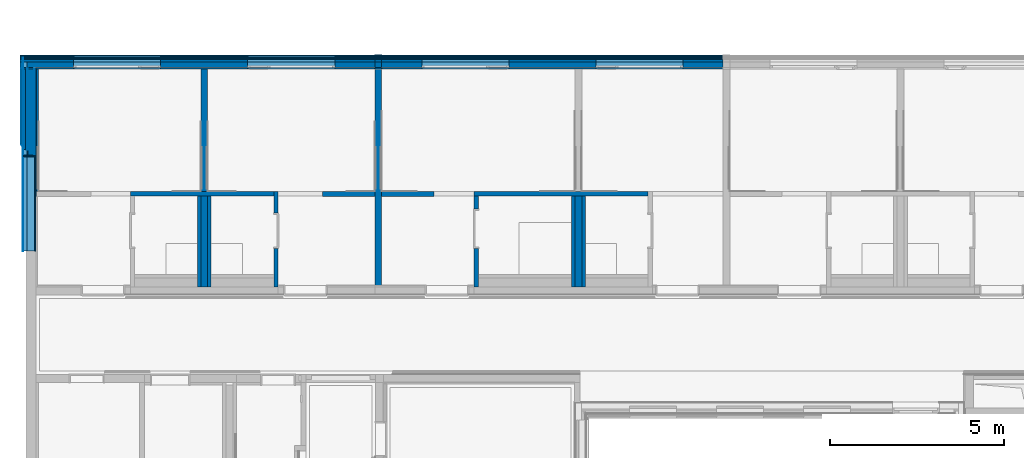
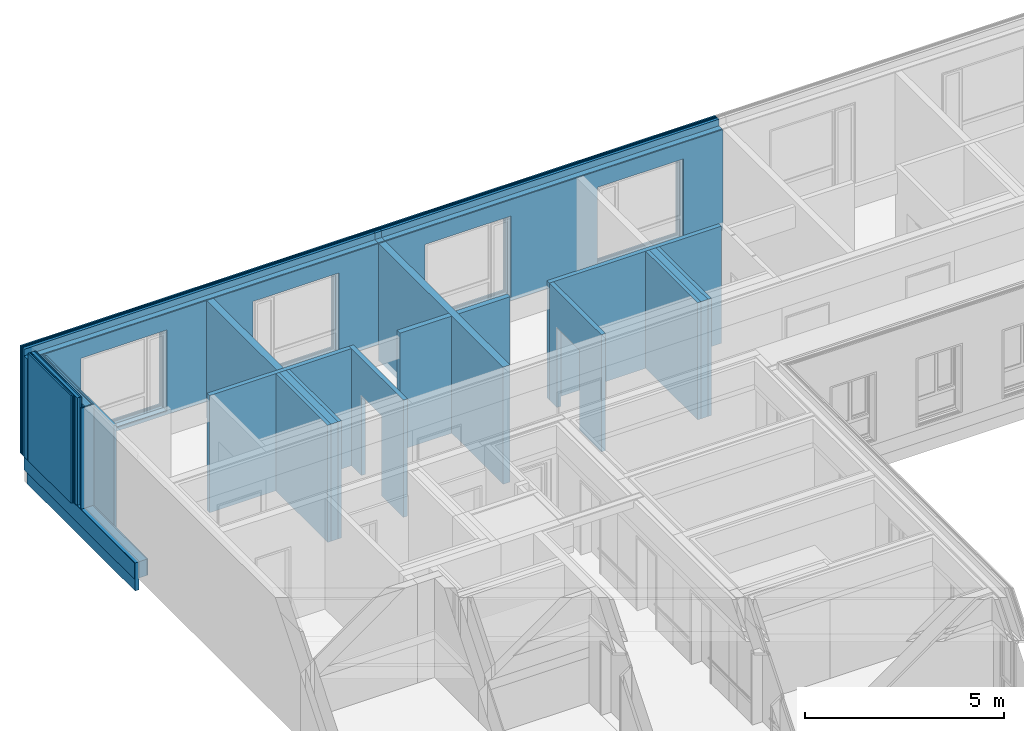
# One storey, part 37 of 207: 50 walls, 30 openings.
"""IFC4 building model written with IfcOpenShell, lengths in metres."""

import ifcopenshell
import ifcopenshell.guid

model = None  # the IFC model being written
_history = None  # IfcOwnerHistory: only IFC2X3 demands one
_inside = {}  # id of a spatial element -> (the spatial element, [elements in it])
_under = {}  # id of a project, library or spatial element -> (it, [spatial elements below it])
_declared = {}  # id of a project -> (the project, [libraries it declares])
_typed = {}  # id of a type object -> (the type object, [elements of that type])
_made_of = {}  # id of a material, layer set ... -> (it, [elements and type objects made of it])


def new_model(schema):
    """Start an empty IFC model of exactly this schema.

    Asked for "IFC4X3", IfcOpenShell would pick the latest addendum, in which some entities
    have other attributes; the version numbers below select the first issue.
    IFC2X3 requires an IfcOwnerHistory on every rooted entity: one is made here for all.
    """
    global model, _history
    if schema == "IFC4X3":
        model = ifcopenshell.file(schema_version=(4, 3, 0, 0))
    else:
        model = ifcopenshell.file(schema=schema)
    _inside.clear()
    _under.clear()
    _declared.clear()
    _typed.clear()
    _made_of.clear()
    _history = None
    if model.schema == "IFC2X3":
        org = make("IfcOrganization", Name="unknown")
        user = make(
            "IfcPersonAndOrganization",
            ThePerson=make("IfcPerson", FamilyName="unknown"),
            TheOrganization=org,
        )
        app = make(
            "IfcApplication",
            ApplicationDeveloper=org,
            Version="unknown",
            ApplicationFullName="unknown",
            ApplicationIdentifier="unknown",
        )
        _history = make(
            "IfcOwnerHistory",
            OwningUser=user,
            OwningApplication=app,
            ChangeAction="ADDED",
            CreationDate=0,
        )
    return model


def make(cls, **values):
    """One entity of the class cls with the attributes given. An attribute that is None is left unset."""
    return model.create_entity(
        cls, **{name: value for name, value in values.items() if value is not None}
    )


def entity(cls, *values):
    """Any entity or typed value of the class cls, its attributes in the order of the schema. None: left unset."""
    e = model.create_entity(cls)
    for i, value in enumerate(values):
        if value is not None:
            e[i] = value
    return e


def rooted(cls, **values):
    """An entity with a GlobalId (a new one), such as an element, a storey or a relation."""
    return make(cls, GlobalId=ifcopenshell.guid.new(), OwnerHistory=_history, **values)


def si_unit(unit_type, name, prefix=None):
    """IfcSIUnit, for example si_unit("LENGTHUNIT", "METRE", prefix="MILLI")."""
    return make("IfcSIUnit", UnitType=unit_type, Prefix=prefix, Name=name)


def converted_unit(unit_type, name, factor, base, dimensions=None, offset=None):
    """IfcConversionBasedUnit, such as the inch: factor (a typed value) times the base unit."""
    return make(
        "IfcConversionBasedUnit"
        if offset is None
        else "IfcConversionBasedUnitWithOffset",
        ConversionOffset=offset,
        Dimensions=None
        if dimensions is None
        else entity("IfcDimensionalExponents", *dimensions),
        UnitType=unit_type,
        Name=name,
        ConversionFactor=make(
            "IfcMeasureWithUnit", ValueComponent=factor, UnitComponent=base
        ),
    )


def derived_unit(unit_type, elements):
    """IfcDerivedUnit: a product of units, each with its exponent."""
    return make(
        "IfcDerivedUnit",
        Elements=[
            make("IfcDerivedUnitElement", Unit=unit, Exponent=power)
            for unit, power in elements
        ],
        UnitType=unit_type,
    )


def assignment(units):
    """IfcUnitAssignment: the units of a project."""
    return None if units is None else make("IfcUnitAssignment", Units=units)


def point(xyz):
    """IfcCartesianPoint."""
    return None if xyz is None else make("IfcCartesianPoint", Coordinates=xyz)


def direction(xyz):
    """IfcDirection."""
    return None if xyz is None else make("IfcDirection", DirectionRatios=xyz)


def frame(location, z_axis=None, x_axis=None):
    """IfcAxis2Placement3D, a coordinate frame: its origin and axes. An axis left out is left unset."""
    return make(
        "IfcAxis2Placement3D",
        Location=point(location),
        Axis=direction(z_axis),
        RefDirection=direction(x_axis),
    )


def frame_2d(location, x_axis=None):
    """IfcAxis2Placement2D, a coordinate frame in the plane: its origin and x axis."""
    return make(
        "IfcAxis2Placement2D", Location=point(location), RefDirection=direction(x_axis)
    )


def origin():
    """The frame at (0, 0, 0) with its axes left unset."""
    return frame((0.0, 0.0, 0.0))


def origin_with_axes():
    """The frame at (0, 0, 0) with the z axis (0, 0, 1) and the x axis (1, 0, 0) written out."""
    return frame((0.0, 0.0, 0.0), z_axis=(0.0, 0.0, 1.0), x_axis=(1.0, 0.0, 0.0))


def place(relative_to, where):
    """IfcLocalPlacement: puts the frame where relative to a parent placement (None: the world)."""
    return make(
        "IfcLocalPlacement", PlacementRelTo=relative_to, RelativePlacement=where
    )


def context(
    kind, dimensions, precision=None, world=None, true_north=None, identifier=None
):
    """IfcGeometricRepresentationContext, for example the 3D "Model" context."""
    return make(
        "IfcGeometricRepresentationContext",
        ContextIdentifier=identifier,
        ContextType=kind,
        CoordinateSpaceDimension=dimensions,
        Precision=precision,
        WorldCoordinateSystem=world,
        TrueNorth=true_north,
    )


def subcontext(parent, identifier, kind, view, scale=None):
    """IfcGeometricRepresentationSubContext, for example "Body" below "Model"."""
    return make(
        "IfcGeometricRepresentationSubContext",
        ContextIdentifier=identifier,
        ContextType=kind,
        ParentContext=parent,
        TargetScale=scale,
        TargetView=view,
    )


def project(units=None, contexts=None):
    """IfcProject with its units and contexts."""
    return rooted(
        "IfcProject",
        Name="project",
        RepresentationContexts=contexts,
        UnitsInContext=assignment(units),
    )


def spatial(cls, under=None, at=None, **own):
    """A site, building, storey or space (cls), placed at a placement, below another one or the project."""
    s = rooted(cls, ObjectPlacement=at, **own)
    if under is not None:
        _under.setdefault(under.id(), (under, []))[1].append(s)
    return s


def polyline(points):
    """IfcPolyline through the points."""
    return make("IfcPolyline", Points=[point(p) for p in points])


def profile(cls, at=None, kind="AREA", **sizes):
    """A parametric profile (cls). Its sizes go by their IFC names, for example OverallWidth=200.0."""
    return make(cls, ProfileType=kind, Position=at, **sizes)


def rectangle(**sizes):
    """IfcRectangleProfileDef."""
    return profile("IfcRectangleProfileDef", **sizes)


def outline(outer, holes=None, kind="AREA"):
    """IfcArbitraryClosedProfileDef: a profile drawn as a closed curve; with holes, ...WithVoids."""
    if holes is None:
        return make("IfcArbitraryClosedProfileDef", ProfileType=kind, OuterCurve=outer)
    return make(
        "IfcArbitraryProfileDefWithVoids",
        ProfileType=kind,
        OuterCurve=outer,
        InnerCurves=holes,
    )


def extrude(swept, where, along, depth):
    """IfcExtrudedAreaSolid: the profile swept, set in the frame where, extruded along a direction by depth."""
    return make(
        "IfcExtrudedAreaSolid",
        SweptArea=swept,
        Position=where,
        ExtrudedDirection=direction(along),
        Depth=depth,
    )


def shape(context_of_items, identifier, shape_type, items):
    """IfcShapeRepresentation: the items that make up one representation, for example the "Body"."""
    return make(
        "IfcShapeRepresentation",
        ContextOfItems=context_of_items,
        RepresentationIdentifier=identifier,
        RepresentationType=shape_type,
        Items=items,
    )


def material(Name=None, Category=None):
    """IfcMaterial."""
    return make("IfcMaterial", Name=Name, Category=Category)


def made_of(thing, what):
    """Note that an element or type object is made of a material, layer set ...; save() writes the relation."""
    if what is not None:
        _made_of.setdefault(what.id(), (what, []))[1].append(thing)
    return thing


def element(
    cls,
    number,
    at=None,
    inside=None,
    cuts=None,
    type_object=None,
    material=None,
    context=None,
    identifier="Body",
    shape_type=None,
    held_by="IfcProductDefinitionShape",
    body=None,
    shapes=None,
    **own,
):
    """One element of the class cls, such as IfcWall. Its Tag is "e" and its number.

    at: its placement. inside: the storey or other place that contains it. cuts: it is an
    opening in that element (IfcRelVoidsElement). A single representation is given by context,
    identifier, shape_type and body (its items); several are given by shapes. held_by: the class
    of the entity that holds the representations. save() writes the other relations.
    """
    e = rooted(cls, Tag="e%d" % number, ObjectPlacement=at, **own)
    if body is not None:
        shapes = [shape(context, identifier, shape_type, body)]
    if shapes is not None:
        e.Representation = make(held_by, Representations=shapes)
    if inside is not None:
        _inside.setdefault(inside.id(), (inside, []))[1].append(e)
    if cuts is not None:
        rooted(
            "IfcRelVoidsElement", RelatingBuildingElement=cuts, RelatedOpeningElement=e
        )
    if type_object is not None:
        _typed.setdefault(type_object.id(), (type_object, []))[1].append(e)
    return made_of(e, material)


def aggregate(whole, parts):
    """IfcRelAggregates: a whole, such as a stair, and the parts it consists of."""
    return rooted("IfcRelAggregates", RelatingObject=whole, RelatedObjects=parts)


def save(model, path):
    """Write the relations noted so far, then the file.

    IfcRelAggregates (storeys below a building ...), IfcRelContainedInSpatialStructure (elements
    in a storey), IfcRelDefinesByType, IfcRelAssociatesMaterial and IfcRelDeclares: one each for
    every whole, place, type object, material and project.
    """
    for whole, parts in _under.values():
        aggregate(whole, parts)
    for where, things in _inside.values():
        rooted(
            "IfcRelContainedInSpatialStructure",
            RelatedElements=things,
            RelatingStructure=where,
        )
    for kind, things in _typed.values():
        rooted("IfcRelDefinesByType", RelatedObjects=things, RelatingType=kind)
    for what, things in _made_of.values():
        rooted("IfcRelAssociatesMaterial", RelatedObjects=things, RelatingMaterial=what)
    for by, libraries in _declared.values():
        rooted("IfcRelDeclares", RelatingContext=by, RelatedDefinitions=libraries)
    model.write(path)


model = new_model("IFC4")

# Units and contexts
model_context = context("Model", 3, precision=1e-05, world=origin())
body_context = subcontext(model_context, "Body", "Model", "MODEL_VIEW")
ifc_project = project(units=[si_unit("LENGTHUNIT", "METRE"), si_unit("AREAUNIT", "SQUARE_METRE"), si_unit("VOLUMEUNIT", "CUBIC_METRE"), si_unit("MASSUNIT", "GRAM", prefix="KILO"), converted_unit("PLANEANGLEUNIT", "DEGREE", entity("IfcPlaneAngleMeasure", 0.0174532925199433), si_unit("PLANEANGLEUNIT", "RADIAN"), dimensions=[0, 0, 0, 0, 0, 0, 0]), derived_unit("THERMALTRANSMITTANCEUNIT", [(si_unit("POWERUNIT", "WATT"), 1), (si_unit("THERMODYNAMICTEMPERATUREUNIT", "KELVIN"), -1), (si_unit("LENGTHUNIT", "METRE"), -2)]), derived_unit("VOLUMETRICFLOWRATEUNIT", [(si_unit("LENGTHUNIT", "METRE"), 3), (converted_unit("TIMEUNIT", "hour", entity("IfcTimeMeasure", 3600.0), si_unit("TIMEUNIT", "SECOND"), dimensions=[0, 0, 1, 0, 0, 0, 0]), -1), (si_unit("LENGTHUNIT", "METRE"), -1)])], contexts=[model_context])

# Site, building, storey
site_placement = place(None, origin())
site = spatial("IfcSite", under=ifc_project, at=site_placement, Name="Psychiatrie Neubau Wunstorf", CompositionType="ELEMENT")
building_placement = place(site_placement, origin())
building = spatial("IfcBuilding", under=site, at=building_placement, Name="Neubau H2 Stationsgebäude", CompositionType="ELEMENT")
storey_placement = place(building_placement, frame((0.0, 0.0, -0.2)))
storey = spatial("IfcBuildingStorey", under=building, at=storey_placement, Name="H2 Ebene 0", CompositionType="ELEMENT", Elevation=-0.2)

# Wall, openings
ifc_material_1 = material(Name="WA-LB")
wall_1_placement = place(storey_placement, frame((-0.293, 30.614, 0.5)))
wall_1 = element("IfcWall", 1, at=wall_1_placement, inside=storey, material=ifc_material_1, context=body_context, shape_type="SweptSolid", body=[
    extrude(rectangle(XDim=10.193, YDim=0.036, at=frame_2d((5.0965, 0.018), x_axis=(1.0, 0.0))), origin_with_axes(), (0.0, 0.0, 1.0), 3.1),
])
opening_1_placement = place(wall_1_placement, frame((1.543, 0.0, 0.1), z_axis=(0.0, 1.0, 0.0), x_axis=(0.0, 0.0, 1.0)))
element("IfcOpeningElement", 2, at=opening_1_placement, cuts=wall_1, Name="Fensteröffnung", ObjectType="Opening", context=body_context, shape_type="SweptSolid", body=[
    extrude(outline(polyline([(2.5, 2.5), (2.5, 0.0), (0.0, 0.0), (0.0, 2.5), (2.5, 2.5)])), origin_with_axes(), (0.0, 0.0, 1.0), 0.036),
])
opening_2_placement = place(wall_1_placement, frame((6.543, 0.0, 0.1), z_axis=(0.0, 1.0, 0.0), x_axis=(0.0, 0.0, 1.0)))
element("IfcOpeningElement", 3, at=opening_2_placement, cuts=wall_1, Name="Fensteröffnung", ObjectType="Opening", context=body_context, shape_type="SweptSolid", body=[
    extrude(outline(polyline([(2.5, 2.5), (2.5, 0.0), (0.0, 0.0), (0.0, 2.5), (2.5, 2.5)])), origin_with_axes(), (0.0, 0.0, 1.0), 0.036),
])

ifc_material_2 = material(Name="WA-HD")
wall_2_placement = place(storey_placement, frame((-0.293, 30.65, 0.5)))
wall_2 = element("IfcWall", 4, at=wall_2_placement, inside=storey, material=ifc_material_2, context=body_context, shape_type="SweptSolid", body=[
    extrude(rectangle(XDim=10.193, YDim=0.16, at=frame_2d((5.0965, 0.08), x_axis=(1.0, 0.0))), origin_with_axes(), (0.0, 0.0, 1.0), 3.1),
])
opening_3_placement = place(wall_2_placement, frame((6.543, 0.0, 0.1), z_axis=(0.0, 1.0, 0.0), x_axis=(0.0, 0.0, 1.0)))
element("IfcOpeningElement", 5, at=opening_3_placement, cuts=wall_2, Name="Fensteröffnung", ObjectType="Opening", context=body_context, shape_type="SweptSolid", body=[
    extrude(outline(polyline([(2.5, 2.5), (2.5, 0.0), (0.0, 0.0), (0.0, 2.5), (2.5, 2.5)])), origin_with_axes(), (0.0, 0.0, 1.0), 0.16),
])
opening_4_placement = place(wall_2_placement, frame((1.543, 0.0, 0.1), z_axis=(0.0, 1.0, 0.0), x_axis=(0.0, 0.0, 1.0)))
element("IfcOpeningElement", 6, at=opening_4_placement, cuts=wall_2, Name="Fensteröffnung", ObjectType="Opening", context=body_context, shape_type="SweptSolid", body=[
    extrude(outline(polyline([(2.5, 2.5), (2.5, 0.0), (0.0, 0.0), (0.0, 2.5), (2.5, 2.5)])), origin_with_axes(), (0.0, 0.0, 1.0), 0.16),
])

ifc_material_3 = material(Name="WA-DL")
wall_3_placement = place(storey_placement, frame((-0.293, 30.81, 0.5)))
wall_3 = element("IfcWall", 7, at=wall_3_placement, inside=storey, material=ifc_material_3, context=body_context, shape_type="SweptSolid", body=[
    extrude(rectangle(XDim=10.193, YDim=0.08, at=frame_2d((5.0965, 0.04), x_axis=(1.0, 0.0))), origin_with_axes(), (0.0, 0.0, 1.0), 3.3),
])
opening_5_placement = place(wall_3_placement, frame((1.543, 0.0, 0.1), z_axis=(0.0, 1.0, 0.0), x_axis=(0.0, 0.0, 1.0)))
element("IfcOpeningElement", 8, at=opening_5_placement, cuts=wall_3, Name="Fensteröffnung", ObjectType="Opening", context=body_context, shape_type="SweptSolid", body=[
    extrude(outline(polyline([(2.5, 2.5), (2.5, 0.0), (0.0, 0.0), (0.0, 2.5), (2.5, 2.5)])), origin_with_axes(), (0.0, 0.0, 1.0), 0.08),
])
opening_6_placement = place(wall_3_placement, frame((6.543, 0.0, 0.1), z_axis=(0.0, 1.0, 0.0), x_axis=(0.0, 0.0, 1.0)))
element("IfcOpeningElement", 9, at=opening_6_placement, cuts=wall_3, Name="Fensteröffnung", ObjectType="Opening", context=body_context, shape_type="SweptSolid", body=[
    extrude(outline(polyline([(2.5, 2.5), (2.5, 0.0), (0.0, 0.0), (0.0, 2.5), (2.5, 2.5)])), origin_with_axes(), (0.0, 0.0, 1.0), 0.08),
])

ifc_material_4 = material(Name="WA-TP")
wall_4_placement = place(storey_placement, frame((-0.293, 30.89, 0.5)))
wall_4 = element("IfcWall", 10, at=wall_4_placement, inside=storey, material=ifc_material_4, context=body_context, shape_type="SweptSolid", body=[
    extrude(rectangle(XDim=10.193, YDim=0.036, at=frame_2d((5.0965, 0.018), x_axis=(1.0, 0.0))), origin_with_axes(), (0.0, 0.0, 1.0), 3.3),
])
opening_7_placement = place(wall_4_placement, frame((6.543, 0.0, 0.1), z_axis=(0.0, 1.0, 0.0), x_axis=(0.0, 0.0, 1.0)))
element("IfcOpeningElement", 11, at=opening_7_placement, cuts=wall_4, Name="Fensteröffnung", ObjectType="Opening", context=body_context, shape_type="SweptSolid", body=[
    extrude(outline(polyline([(2.5, 2.5), (2.5, 0.0), (0.0, 0.0), (0.0, 2.5), (2.5, 2.5)])), origin_with_axes(), (0.0, 0.0, 1.0), 0.036),
])
opening_8_placement = place(wall_4_placement, frame((1.543, 0.0, 0.1), z_axis=(0.0, 1.0, 0.0), x_axis=(0.0, 0.0, 1.0)))
element("IfcOpeningElement", 12, at=opening_8_placement, cuts=wall_4, Name="Fensteröffnung", ObjectType="Opening", context=body_context, shape_type="SweptSolid", body=[
    extrude(outline(polyline([(2.5, 2.5), (2.5, 0.0), (0.0, 0.0), (0.0, 2.5), (2.5, 2.5)])), origin_with_axes(), (0.0, 0.0, 1.0), 0.036),
])

ifc_material_5 = material(Name="WA-KL")
wall_5_placement = place(storey_placement, frame((-0.293, 30.926, 0.5)))
wall_5 = element("IfcWall", 13, at=wall_5_placement, inside=storey, material=ifc_material_5, context=body_context, shape_type="SweptSolid", body=[
    extrude(rectangle(XDim=10.193, YDim=0.024, at=frame_2d((5.0965, 0.012), x_axis=(1.0, 0.0))), origin_with_axes(), (0.0, 0.0, 1.0), 3.3),
])
opening_9_placement = place(wall_5_placement, frame((1.543, 0.0, 0.1), z_axis=(0.0, 1.0, 0.0), x_axis=(0.0, 0.0, 1.0)))
element("IfcOpeningElement", 14, at=opening_9_placement, cuts=wall_5, Name="Fensteröffnung", ObjectType="Opening", context=body_context, shape_type="SweptSolid", body=[
    extrude(outline(polyline([(2.5, 2.5), (2.5, 0.0), (0.0, 0.0), (0.0, 2.5), (2.5, 2.5)])), origin_with_axes(), (0.0, 0.0, 1.0), 0.024),
])
opening_10_placement = place(wall_5_placement, frame((6.543, 0.0, 0.1), z_axis=(0.0, 1.0, 0.0), x_axis=(0.0, 0.0, 1.0)))
element("IfcOpeningElement", 15, at=opening_10_placement, cuts=wall_5, Name="Fensteröffnung", ObjectType="Opening", context=body_context, shape_type="SweptSolid", body=[
    extrude(outline(polyline([(2.5, 2.5), (2.5, 0.0), (0.0, 0.0), (0.0, 2.5), (2.5, 2.5)])), origin_with_axes(), (0.0, 0.0, 1.0), 0.024),
])

ifc_material_6 = material(Name="WA-TL")
wall_6_placement = place(storey_placement, frame((-0.293, 30.95, 0.5)))
wall_6 = element("IfcWall", 16, at=wall_6_placement, inside=storey, material=ifc_material_6, context=body_context, shape_type="SweptSolid", body=[
    extrude(rectangle(XDim=10.193, YDim=0.024, at=frame_2d((5.0965, 0.012), x_axis=(1.0, 0.0))), origin_with_axes(), (0.0, 0.0, 1.0), 3.3),
])
opening_11_placement = place(wall_6_placement, frame((6.543, 0.0, 0.1), z_axis=(0.0, 1.0, 0.0), x_axis=(0.0, 0.0, 1.0)))
element("IfcOpeningElement", 17, at=opening_11_placement, cuts=wall_6, Name="Fensteröffnung", ObjectType="Opening", context=body_context, shape_type="SweptSolid", body=[
    extrude(outline(polyline([(2.5, 2.5), (2.5, 0.0), (0.0, 0.0), (0.0, 2.5), (2.5, 2.5)])), origin_with_axes(), (0.0, 0.0, 1.0), 0.024),
])
opening_12_placement = place(wall_6_placement, frame((1.543, 0.0, 0.1), z_axis=(0.0, 1.0, 0.0), x_axis=(0.0, 0.0, 1.0)))
element("IfcOpeningElement", 18, at=opening_12_placement, cuts=wall_6, Name="Fensteröffnung", ObjectType="Opening", context=body_context, shape_type="SweptSolid", body=[
    extrude(outline(polyline([(2.5, 2.5), (2.5, 0.0), (0.0, 0.0), (0.0, 2.5), (2.5, 2.5)])), origin_with_axes(), (0.0, 0.0, 1.0), 0.024),
])

ifc_material_7 = material(Name="WA-HS")
wall_7_placement = place(storey_placement, frame((-0.293, 30.974, 0.5)))
wall_7 = element("IfcWall", 19, at=wall_7_placement, inside=storey, material=ifc_material_7, context=body_context, shape_type="SweptSolid", body=[
    extrude(rectangle(XDim=10.193, YDim=0.042, at=frame_2d((5.0965, 0.021), x_axis=(1.0, 0.0))), origin_with_axes(), (0.0, 0.0, 1.0), 3.3),
])
opening_13_placement = place(wall_7_placement, frame((1.543, 0.0, 0.1), z_axis=(0.0, 1.0, 0.0), x_axis=(0.0, 0.0, 1.0)))
element("IfcOpeningElement", 20, at=opening_13_placement, cuts=wall_7, Name="Fensteröffnung", ObjectType="Opening", context=body_context, shape_type="SweptSolid", body=[
    extrude(outline(polyline([(2.5, 2.5), (2.5, 0.0), (0.0, 0.0), (0.0, 2.5), (2.5, 2.5)])), origin_with_axes(), (0.0, 0.0, 1.0), 0.042),
])
opening_14_placement = place(wall_7_placement, frame((6.543, 0.0, 0.1), z_axis=(0.0, 1.0, 0.0), x_axis=(0.0, 0.0, 1.0)))
element("IfcOpeningElement", 21, at=opening_14_placement, cuts=wall_7, Name="Fensteröffnung", ObjectType="Opening", context=body_context, shape_type="SweptSolid", body=[
    extrude(outline(polyline([(2.5, 2.5), (2.5, 0.0), (0.0, 0.0), (0.0, 2.5), (2.5, 2.5)])), origin_with_axes(), (0.0, 0.0, 1.0), 0.042),
])

ifc_material_8 = material(Name="WA-LB")
wall_8_placement = place(storey_placement, frame((10.1, 30.614, 0.5)))
wall_8 = element("IfcWall", 22, at=wall_8_placement, inside=storey, material=ifc_material_8, context=body_context, shape_type="SweptSolid", body=[
    extrude(rectangle(XDim=9.8, YDim=0.036, at=frame_2d((4.9, 0.018), x_axis=(1.0, 0.0))), origin_with_axes(), (0.0, 0.0, 1.0), 3.1),
])
opening_15_placement = place(wall_8_placement, frame((1.15, 0.0, 0.1), z_axis=(0.0, 1.0, 0.0), x_axis=(0.0, 0.0, 1.0)))
element("IfcOpeningElement", 23, at=opening_15_placement, cuts=wall_8, Name="Fensteröffnung", ObjectType="Opening", context=body_context, shape_type="SweptSolid", body=[
    extrude(outline(polyline([(2.5, 2.5), (2.5, 0.0), (0.0, 0.0), (0.0, 2.5), (2.5, 2.5)])), origin_with_axes(), (0.0, 0.0, 1.0), 0.036),
])
opening_16_placement = place(wall_8_placement, frame((6.15, 0.0, 0.1), z_axis=(0.0, 1.0, 0.0), x_axis=(0.0, 0.0, 1.0)))
element("IfcOpeningElement", 24, at=opening_16_placement, cuts=wall_8, Name="Fensteröffnung", ObjectType="Opening", context=body_context, shape_type="SweptSolid", body=[
    extrude(outline(polyline([(2.5, 2.5), (2.5, 0.0), (0.0, 0.0), (0.0, 2.5), (2.5, 2.5)])), origin_with_axes(), (0.0, 0.0, 1.0), 0.036),
])

ifc_material_9 = material(Name="WA-HD")
wall_9_placement = place(storey_placement, frame((10.1, 30.65, 0.5)))
wall_9 = element("IfcWall", 25, at=wall_9_placement, inside=storey, material=ifc_material_9, context=body_context, shape_type="SweptSolid", body=[
    extrude(rectangle(XDim=9.8, YDim=0.16, at=frame_2d((4.9, 0.08), x_axis=(1.0, 0.0))), origin_with_axes(), (0.0, 0.0, 1.0), 3.1),
])
opening_17_placement = place(wall_9_placement, frame((1.15, 0.0, 0.1), z_axis=(0.0, 1.0, 0.0), x_axis=(0.0, 0.0, 1.0)))
element("IfcOpeningElement", 26, at=opening_17_placement, cuts=wall_9, Name="Fensteröffnung", ObjectType="Opening", context=body_context, shape_type="SweptSolid", body=[
    extrude(outline(polyline([(2.5, 2.5), (2.5, 0.0), (0.0, 0.0), (0.0, 2.5), (2.5, 2.5)])), origin_with_axes(), (0.0, 0.0, 1.0), 0.16),
])
opening_18_placement = place(wall_9_placement, frame((6.15, 0.0, 0.1), z_axis=(0.0, 1.0, 0.0), x_axis=(0.0, 0.0, 1.0)))
element("IfcOpeningElement", 27, at=opening_18_placement, cuts=wall_9, Name="Fensteröffnung", ObjectType="Opening", context=body_context, shape_type="SweptSolid", body=[
    extrude(outline(polyline([(2.5, 2.5), (2.5, 0.0), (0.0, 0.0), (0.0, 2.5), (2.5, 2.5)])), origin_with_axes(), (0.0, 0.0, 1.0), 0.16),
])

ifc_material_10 = material(Name="WA-DL")
wall_10_placement = place(storey_placement, frame((10.1, 30.81, 0.5)))
wall_10 = element("IfcWall", 28, at=wall_10_placement, inside=storey, material=ifc_material_10, context=body_context, shape_type="SweptSolid", body=[
    extrude(rectangle(XDim=9.8, YDim=0.08, at=frame_2d((4.9, 0.04), x_axis=(1.0, 0.0))), origin_with_axes(), (0.0, 0.0, 1.0), 3.3),
])
opening_19_placement = place(wall_10_placement, frame((1.15, 0.0, 0.1), z_axis=(0.0, 1.0, 0.0), x_axis=(0.0, 0.0, 1.0)))
element("IfcOpeningElement", 29, at=opening_19_placement, cuts=wall_10, Name="Fensteröffnung", ObjectType="Opening", context=body_context, shape_type="SweptSolid", body=[
    extrude(outline(polyline([(2.5, 2.5), (2.5, 0.0), (0.0, 0.0), (0.0, 2.5), (2.5, 2.5)])), origin_with_axes(), (0.0, 0.0, 1.0), 0.08),
])
opening_20_placement = place(wall_10_placement, frame((6.15, 0.0, 0.1), z_axis=(0.0, 1.0, 0.0), x_axis=(0.0, 0.0, 1.0)))
element("IfcOpeningElement", 30, at=opening_20_placement, cuts=wall_10, Name="Fensteröffnung", ObjectType="Opening", context=body_context, shape_type="SweptSolid", body=[
    extrude(outline(polyline([(2.5, 2.5), (2.5, 0.0), (0.0, 0.0), (0.0, 2.5), (2.5, 2.5)])), origin_with_axes(), (0.0, 0.0, 1.0), 0.08),
])

ifc_material_11 = material(Name="WA-TP")
wall_11_placement = place(storey_placement, frame((10.1, 30.89, 0.5)))
wall_11 = element("IfcWall", 31, at=wall_11_placement, inside=storey, material=ifc_material_11, context=body_context, shape_type="SweptSolid", body=[
    extrude(rectangle(XDim=9.8, YDim=0.036, at=frame_2d((4.9, 0.018), x_axis=(1.0, 0.0))), origin_with_axes(), (0.0, 0.0, 1.0), 3.3),
])
opening_21_placement = place(wall_11_placement, frame((1.15, 0.0, 0.1), z_axis=(0.0, 1.0, 0.0), x_axis=(0.0, 0.0, 1.0)))
element("IfcOpeningElement", 32, at=opening_21_placement, cuts=wall_11, Name="Fensteröffnung", ObjectType="Opening", context=body_context, shape_type="SweptSolid", body=[
    extrude(outline(polyline([(2.5, 2.5), (2.5, 0.0), (0.0, 0.0), (0.0, 2.5), (2.5, 2.5)])), origin_with_axes(), (0.0, 0.0, 1.0), 0.036),
])
opening_22_placement = place(wall_11_placement, frame((6.15, 0.0, 0.1), z_axis=(0.0, 1.0, 0.0), x_axis=(0.0, 0.0, 1.0)))
element("IfcOpeningElement", 33, at=opening_22_placement, cuts=wall_11, Name="Fensteröffnung", ObjectType="Opening", context=body_context, shape_type="SweptSolid", body=[
    extrude(outline(polyline([(2.5, 2.5), (2.5, 0.0), (0.0, 0.0), (0.0, 2.5), (2.5, 2.5)])), origin_with_axes(), (0.0, 0.0, 1.0), 0.036),
])

ifc_material_12 = material(Name="WA-KL")
wall_12_placement = place(storey_placement, frame((10.1, 30.926, 0.5)))
wall_12 = element("IfcWall", 34, at=wall_12_placement, inside=storey, material=ifc_material_12, context=body_context, shape_type="SweptSolid", body=[
    extrude(rectangle(XDim=9.8, YDim=0.024, at=frame_2d((4.9, 0.012), x_axis=(1.0, 0.0))), origin_with_axes(), (0.0, 0.0, 1.0), 3.3),
])
opening_23_placement = place(wall_12_placement, frame((1.15, 0.0, 0.1), z_axis=(0.0, 1.0, 0.0), x_axis=(0.0, 0.0, 1.0)))
element("IfcOpeningElement", 35, at=opening_23_placement, cuts=wall_12, Name="Fensteröffnung", ObjectType="Opening", context=body_context, shape_type="SweptSolid", body=[
    extrude(outline(polyline([(2.5, 2.5), (2.5, 0.0), (0.0, 0.0), (0.0, 2.5), (2.5, 2.5)])), origin_with_axes(), (0.0, 0.0, 1.0), 0.024),
])
opening_24_placement = place(wall_12_placement, frame((6.15, 0.0, 0.1), z_axis=(0.0, 1.0, 0.0), x_axis=(0.0, 0.0, 1.0)))
element("IfcOpeningElement", 36, at=opening_24_placement, cuts=wall_12, Name="Fensteröffnung", ObjectType="Opening", context=body_context, shape_type="SweptSolid", body=[
    extrude(outline(polyline([(2.5, 2.5), (2.5, 0.0), (0.0, 0.0), (0.0, 2.5), (2.5, 2.5)])), origin_with_axes(), (0.0, 0.0, 1.0), 0.024),
])

ifc_material_13 = material(Name="WA-TL")
wall_13_placement = place(storey_placement, frame((10.1, 30.95, 0.5)))
wall_13 = element("IfcWall", 37, at=wall_13_placement, inside=storey, material=ifc_material_13, context=body_context, shape_type="SweptSolid", body=[
    extrude(rectangle(XDim=9.8, YDim=0.024, at=frame_2d((4.9, 0.012), x_axis=(1.0, 0.0))), origin_with_axes(), (0.0, 0.0, 1.0), 3.3),
])
opening_25_placement = place(wall_13_placement, frame((1.15, 0.0, 0.1), z_axis=(0.0, 1.0, 0.0), x_axis=(0.0, 0.0, 1.0)))
element("IfcOpeningElement", 38, at=opening_25_placement, cuts=wall_13, Name="Fensteröffnung", ObjectType="Opening", context=body_context, shape_type="SweptSolid", body=[
    extrude(outline(polyline([(2.5, 2.5), (2.5, 0.0), (0.0, 0.0), (0.0, 2.5), (2.5, 2.5)])), origin_with_axes(), (0.0, 0.0, 1.0), 0.024),
])
opening_26_placement = place(wall_13_placement, frame((6.15, 0.0, 0.1), z_axis=(0.0, 1.0, 0.0), x_axis=(0.0, 0.0, 1.0)))
element("IfcOpeningElement", 39, at=opening_26_placement, cuts=wall_13, Name="Fensteröffnung", ObjectType="Opening", context=body_context, shape_type="SweptSolid", body=[
    extrude(outline(polyline([(2.5, 2.5), (2.5, 0.0), (0.0, 0.0), (0.0, 2.5), (2.5, 2.5)])), origin_with_axes(), (0.0, 0.0, 1.0), 0.024),
])

ifc_material_14 = material(Name="WA-HS")
wall_14_placement = place(storey_placement, frame((10.1, 30.974, 0.5)))
wall_14 = element("IfcWall", 40, at=wall_14_placement, inside=storey, material=ifc_material_14, context=body_context, shape_type="SweptSolid", body=[
    extrude(rectangle(XDim=9.8, YDim=0.042, at=frame_2d((4.9, 0.021), x_axis=(1.0, 0.0))), origin_with_axes(), (0.0, 0.0, 1.0), 3.3),
])
opening_27_placement = place(wall_14_placement, frame((1.15, 0.0, 0.1), z_axis=(0.0, 1.0, 0.0), x_axis=(0.0, 0.0, 1.0)))
element("IfcOpeningElement", 41, at=opening_27_placement, cuts=wall_14, Name="Fensteröffnung", ObjectType="Opening", context=body_context, shape_type="SweptSolid", body=[
    extrude(outline(polyline([(2.5, 2.5), (2.5, 0.0), (0.0, 0.0), (0.0, 2.5), (2.5, 2.5)])), origin_with_axes(), (0.0, 0.0, 1.0), 0.042),
])
opening_28_placement = place(wall_14_placement, frame((6.15, 0.0, 0.1), z_axis=(0.0, 1.0, 0.0), x_axis=(0.0, 0.0, 1.0)))
element("IfcOpeningElement", 42, at=opening_28_placement, cuts=wall_14, Name="Fensteröffnung", ObjectType="Opening", context=body_context, shape_type="SweptSolid", body=[
    extrude(outline(polyline([(2.5, 2.5), (2.5, 0.0), (0.0, 0.0), (0.0, 2.5), (2.5, 2.5)])), origin_with_axes(), (0.0, 0.0, 1.0), 0.042),
])

# Walls
ifc_material_15 = material(Name="WA-LB")
wall_15_placement = place(storey_placement, frame((9.9, 30.614, 0.5)))
element("IfcWall", 43, at=wall_15_placement, inside=storey, material=ifc_material_15, context=body_context, shape_type="SweptSolid", body=[
    extrude(rectangle(XDim=0.2, YDim=0.036, at=frame_2d((0.1, 0.018), x_axis=(1.0, 0.0))), origin_with_axes(), (0.0, 0.0, 1.0), 3.1),
])
ifc_material_16 = material(Name="WA-HD")
wall_16_placement = place(storey_placement, frame((9.9, 30.65, 0.5)))
element("IfcWall", 44, at=wall_16_placement, inside=storey, material=ifc_material_16, context=body_context, shape_type="SweptSolid", body=[
    extrude(rectangle(XDim=0.2, YDim=0.16, at=frame_2d((0.1, 0.08), x_axis=(1.0, 0.0))), origin_with_axes(), (0.0, 0.0, 1.0), 3.1),
])
ifc_material_17 = material(Name="WA-DL")
wall_17_placement = place(storey_placement, frame((9.9, 30.81, 0.5)))
element("IfcWall", 45, at=wall_17_placement, inside=storey, material=ifc_material_17, context=body_context, shape_type="SweptSolid", body=[
    extrude(rectangle(XDim=0.2, YDim=0.08, at=frame_2d((0.1, 0.04), x_axis=(1.0, 0.0))), origin_with_axes(), (0.0, 0.0, 1.0), 3.3),
])
ifc_material_18 = material(Name="WA-TP")
wall_18_placement = place(storey_placement, frame((9.9, 30.89, 0.5)))
element("IfcWall", 46, at=wall_18_placement, inside=storey, material=ifc_material_18, context=body_context, shape_type="SweptSolid", body=[
    extrude(rectangle(XDim=0.2, YDim=0.036, at=frame_2d((0.1, 0.018), x_axis=(1.0, 0.0))), origin_with_axes(), (0.0, 0.0, 1.0), 3.3),
])
ifc_material_19 = material(Name="WA-KL")
wall_19_placement = place(storey_placement, frame((9.9, 30.926, 0.5)))
element("IfcWall", 47, at=wall_19_placement, inside=storey, material=ifc_material_19, context=body_context, shape_type="SweptSolid", body=[
    extrude(rectangle(XDim=0.2, YDim=0.024, at=frame_2d((0.1, 0.012), x_axis=(1.0, 0.0))), origin_with_axes(), (0.0, 0.0, 1.0), 3.3),
])
ifc_material_20 = material(Name="WA-TL")
wall_20_placement = place(storey_placement, frame((9.9, 30.95, 0.5)))
element("IfcWall", 48, at=wall_20_placement, inside=storey, material=ifc_material_20, context=body_context, shape_type="SweptSolid", body=[
    extrude(rectangle(XDim=0.2, YDim=0.024, at=frame_2d((0.1, 0.012), x_axis=(1.0, 0.0))), origin_with_axes(), (0.0, 0.0, 1.0), 3.3),
])
ifc_material_21 = material(Name="WA-HS")
wall_21_placement = place(storey_placement, frame((9.9, 30.974, 0.5)))
element("IfcWall", 49, at=wall_21_placement, inside=storey, material=ifc_material_21, context=body_context, shape_type="SweptSolid", body=[
    extrude(rectangle(XDim=0.2, YDim=0.042, at=frame_2d((0.1, 0.021), x_axis=(1.0, 0.0))), origin_with_axes(), (0.0, 0.0, 1.0), 3.3),
])
ifc_material_22 = material(Name="WA-LB")
wall_22_placement = place(storey_placement, frame((0.169, 28.1302445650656, 0.5), z_axis=(0.0, 0.0, 1.0), x_axis=(1.60202541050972e-16, 1.0, 0.0)))
element("IfcWall", 50, at=wall_22_placement, inside=storey, material=ifc_material_22, context=body_context, shape_type="SweptSolid", body=[
    extrude(rectangle(XDim=2.48375543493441, YDim=0.036, at=frame_2d((1.24187771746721, 0.018), x_axis=(1.0, 0.0))), origin_with_axes(), (0.0, 0.0, 1.0), 3.1),
])
ifc_material_23 = material(Name="WA-LB")
wall_23_placement = place(storey_placement, frame((0.132999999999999, 28.1302445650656, 0.5), z_axis=(0.0, 0.0, 1.0), x_axis=(1.83088618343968e-16, 1.0, 0.0)))
element("IfcWall", 51, at=wall_23_placement, inside=storey, material=ifc_material_23, context=body_context, shape_type="SweptSolid", body=[
    extrude(rectangle(XDim=2.48375543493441, YDim=0.019, at=frame_2d((1.24187771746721, 0.00950000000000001), x_axis=(1.0, 0.0))), origin_with_axes(), (0.0, 0.0, 1.0), 3.1),
])
ifc_material_24 = material(Name="WA-HD")
wall_24_placement = place(storey_placement, frame((0.113999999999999, 28.1302445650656, 0.5), z_axis=(0.0, 0.0, 1.0), x_axis=(1.83088618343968e-16, 1.0, 0.0)))
element("IfcWall", 52, at=wall_24_placement, inside=storey, material=ifc_material_24, context=body_context, shape_type="SweptSolid", body=[
    extrude(rectangle(XDim=2.48375543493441, YDim=0.18, at=frame_2d((1.24187771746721, 0.09), x_axis=(1.0, 0.0))), origin_with_axes(), (0.0, 0.0, 1.0), 3.1),
])
ifc_material_25 = material(Name="WA-LB")
wall_25_placement = place(storey_placement, frame((-0.0660000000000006, 28.2902445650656, 0.5), z_axis=(0.0, 0.0, 1.0), x_axis=(1.83464075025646e-16, 1.0, 0.0)))
element("IfcWall", 53, at=wall_25_placement, inside=storey, material=ifc_material_25, context=body_context, shape_type="SweptSolid", body=[
    extrude(rectangle(XDim=2.32375543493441, YDim=0.019, at=frame_2d((1.16187771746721, 0.0095), x_axis=(1.0, 0.0))), origin_with_axes(), (0.0, 0.0, 1.0), 3.3),
])
ifc_material_26 = material(Name="WA-TP")
wall_26_placement = place(storey_placement, frame((-0.0850000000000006, 28.2902445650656, 0.5), z_axis=(0.0, 0.0, 1.0), x_axis=(1.83464075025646e-16, 1.0, 0.0)))
element("IfcWall", 54, at=wall_26_placement, inside=storey, material=ifc_material_26, context=body_context, shape_type="SweptSolid", body=[
    extrude(rectangle(XDim=2.32375543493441, YDim=0.036, at=frame_2d((1.16187771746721, 0.018), x_axis=(1.0, 0.0))), origin_with_axes(), (0.0, 0.0, 1.0), 3.3),
])
ifc_material_27 = material(Name="WA-DL")
wall_27_placement = place(storey_placement, frame((-0.121000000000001, 28.2902445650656, 0.5), z_axis=(0.0, 0.0, 1.0), x_axis=(1.77348605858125e-16, 1.0, 0.0)))
element("IfcWall", 55, at=wall_27_placement, inside=storey, material=ifc_material_27, context=body_context, shape_type="SweptSolid", body=[
    extrude(rectangle(XDim=2.32375543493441, YDim=0.0799999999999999, at=frame_2d((1.16187771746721, 0.04), x_axis=(1.0, 0.0))), origin_with_axes(), (0.0, 0.0, 1.0), 3.3),
])
ifc_material_28 = material(Name="WA-KL")
wall_28_placement = place(storey_placement, frame((-0.201000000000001, 28.4062445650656, 0.5), z_axis=(0.0, 0.0, 1.0), x_axis=(1.80230076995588e-16, 1.0, 0.0)))
element("IfcWall", 56, at=wall_28_placement, inside=storey, material=ifc_material_28, context=body_context, shape_type="SweptSolid", body=[
    extrude(rectangle(XDim=2.20775543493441, YDim=0.025, at=frame_2d((1.10387771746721, 0.0125), x_axis=(1.0, 0.0))), origin_with_axes(), (0.0, 0.0, 1.0), 3.3),
])
ifc_material_29 = material(Name="WA-TL")
wall_29_placement = place(storey_placement, frame((-0.226000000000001, 28.4302445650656, 0.5), z_axis=(0.0, 0.0, 1.0), x_axis=(1.82210849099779e-16, 1.0, 0.0)))
element("IfcWall", 57, at=wall_29_placement, inside=storey, material=ifc_material_29, context=body_context, shape_type="SweptSolid", body=[
    extrude(rectangle(XDim=2.18375543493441, YDim=0.025, at=frame_2d((1.09187771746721, 0.0125), x_axis=(1.0, 0.0))), origin_with_axes(), (0.0, 0.0, 1.0), 3.3),
])
ifc_material_30 = material(Name="WA-HS")
wall_30_placement = place(storey_placement, frame((-0.251000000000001, 28.4542445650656, 0.5), z_axis=(0.0, 0.0, 1.0), x_axis=(1.84235643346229e-16, 1.0, 0.0)))
element("IfcWall", 58, at=wall_30_placement, inside=storey, material=ifc_material_30, context=body_context, shape_type="SweptSolid", body=[
    extrude(rectangle(XDim=2.15975543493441, YDim=0.042, at=frame_2d((1.07987771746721, 0.021), x_axis=(1.0, 0.0))), origin_with_axes(), (0.0, 0.0, 1.0), 3.3),
])
ifc_material_31 = material(Name="WA-LB")
wall_31_placement = place(storey_placement, frame((-0.201, 28.0942445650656, 0.5)))
element("IfcWall", 59, at=wall_31_placement, inside=storey, material=ifc_material_31, context=body_context, shape_type="SweptSolid", body=[
    extrude(rectangle(XDim=0.369999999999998, YDim=0.036, at=frame_2d((0.184999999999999, 0.018), x_axis=(1.0, 0.0))), origin_with_axes(), (0.0, 0.0, 1.0), 3.1),
])
ifc_material_32 = material(Name="WA-LB")
wall_32_placement = place(storey_placement, frame((0.170999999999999, 25.3742625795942, 0.0), z_axis=(0.0, 0.0, 1.0), x_axis=(2.27819010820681e-16, 1.0, 0.0)))
element("IfcWall", 60, at=wall_32_placement, inside=storey, material=ifc_material_32, context=body_context, shape_type="SweptSolid", body=[
    extrude(rectangle(XDim=5.23973742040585, YDim=0.0359999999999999, at=frame_2d((2.61986871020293, 0.018), x_axis=(1.0, 0.0))), origin_with_axes(), (0.0, 0.0, 1.0), 0.5),
])
ifc_material_33 = material(Name="WA-STB")
wall_33_placement = place(storey_placement, frame((0.134999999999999, 25.3742625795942, 0.0), z_axis=(0.0, 0.0, 1.0), x_axis=(2.32312204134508e-16, 1.0, 0.0)))
element("IfcWall", 61, at=wall_33_placement, inside=storey, material=ifc_material_33, context=body_context, shape_type="SweptSolid", body=[
    extrude(rectangle(XDim=5.26073742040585, YDim=0.22, at=frame_2d((2.63036871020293, 0.11), x_axis=(1.0, 0.0))), origin_with_axes(), (0.0, 0.0, 1.0), 0.5),
])
ifc_material_34 = material(Name="WA-DE")
wall_34_placement = place(storey_placement, frame((-0.0850000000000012, 25.3742625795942, -0.36), z_axis=(0.0, 0.0, 1.0), x_axis=(2.35290417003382e-16, 1.0, 0.0)))
element("IfcWall", 62, at=wall_34_placement, inside=storey, material=ifc_material_34, context=body_context, shape_type="SweptSolid", body=[
    extrude(rectangle(XDim=5.43573742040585, YDim=0.12, at=frame_2d((2.71786871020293, 0.06), x_axis=(1.0, 0.0))), origin_with_axes(), (0.0, 0.0, 1.0), 0.86),
])
ifc_material_35 = material(Name="WA-LB")
wall_35_placement = place(storey_placement, frame((-0.205000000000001, 25.3742625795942, 0.0), z_axis=(0.0, 0.0, 1.0), x_axis=(2.40439790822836e-16, 1.0, 0.0)))
element("IfcWall", 63, at=wall_35_placement, inside=storey, material=ifc_material_35, context=body_context, shape_type="SweptSolid", body=[
    extrude(rectangle(XDim=5.55573742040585, YDim=0.015, at=frame_2d((2.77786871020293, 0.0075), x_axis=(1.0, 0.0))), origin_with_axes(), (0.0, 0.0, 1.0), 0.5),
])
ifc_material_36 = material(Name="WI-LB")
wall_36_placement = place(storey_placement, frame((0.169, 30.614, 0.0), z_axis=(0.0, 0.0, 1.0), x_axis=(0.0, -1.0, 0.0)))
element("IfcWall", 64, at=wall_36_placement, inside=storey, material=ifc_material_36, context=body_context, shape_type="SweptSolid", body=[
    extrude(rectangle(XDim=3.52450000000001, YDim=0.075, at=frame_2d((1.76225, 0.0375), x_axis=(1.0, 0.0))), origin_with_axes(), (0.0, 0.0, 1.0), 3.55),
])
ifc_material_37 = material(Name="WI-LB")
wall_37_placement = place(storey_placement, frame((4.9, 30.614, 0.0), z_axis=(0.0, 0.0, 1.0), x_axis=(0.0, -1.0, 0.0)))
element("IfcWall", 65, at=wall_37_placement, inside=storey, material=ifc_material_37, context=body_context, shape_type="SweptSolid", body=[
    extrude(rectangle(XDim=3.5245, YDim=0.2, at=frame_2d((1.76225, 0.1), x_axis=(1.0, 0.0))), origin_with_axes(), (0.0, 0.0, 1.0), 3.6),
])
ifc_material_38 = material(Name="WI-LB")
wall_38_placement = place(storey_placement, frame((9.9, 30.614, 0.0), z_axis=(0.0, 0.0, 1.0), x_axis=(0.0, -1.0, 0.0)))
element("IfcWall", 66, at=wall_38_placement, inside=storey, material=ifc_material_38, context=body_context, shape_type="SweptSolid", body=[
    extrude(rectangle(XDim=6.26449999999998, YDim=0.2, at=frame_2d((3.13224999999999, 0.1), x_axis=(1.0, 0.0))), origin_with_axes(), (0.0, 0.0, 1.0), 3.6),
])
ifc_material_39 = material(Name="WI-LB")
wall_39_placement = place(storey_placement, frame((2.875, 26.9645, 0.0)))
element("IfcWall", 67, at=wall_39_placement, inside=storey, material=ifc_material_39, context=body_context, shape_type="SweptSolid", body=[
    extrude(rectangle(XDim=4.125, YDim=0.125, at=frame_2d((2.0625, 0.0625), x_axis=(1.0, 0.0))), origin_with_axes(), (0.0, 0.0, 1.0), 3.6),
])

# Wall, opening
ifc_material_40 = material(Name="WI-LB")
wall_40_placement = place(storey_placement, frame((7.0, 27.0895, 0.0), z_axis=(0.0, 0.0, 1.0), x_axis=(0.0, -1.0, 0.0)))
wall_40 = element("IfcWall", 68, at=wall_40_placement, inside=storey, material=ifc_material_40, context=body_context, shape_type="SweptSolid", body=[
    extrude(rectangle(XDim=2.73999999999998, YDim=0.125, at=frame_2d((1.36999999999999, 0.0625), x_axis=(1.0, 0.0))), origin_with_axes(), (0.0, 0.0, 1.0), 3.6),
])
opening_29_placement = place(wall_40_placement, frame((0.625, 0.0, 0.0), z_axis=(0.0, 1.0, 0.0), x_axis=(0.0, 0.0, 1.0)))
element("IfcOpeningElement", 69, at=opening_29_placement, cuts=wall_40, Name="Türöffnung", ObjectType="Opening", context=body_context, shape_type="SweptSolid", body=[
    extrude(outline(polyline([(2.46, 1.01), (2.46, 0.0), (0.0, 0.0), (0.0, 1.01), (2.46, 1.01)])), origin_with_axes(), (0.0, 0.0, 1.0), 0.125),
])

# Walls
ifc_material_41 = material(Name="WI-LB")
wall_41_placement = place(storey_placement, frame((8.39999999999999, 26.9395, 0.0)))
element("IfcWall", 70, at=wall_41_placement, inside=storey, material=ifc_material_41, context=body_context, shape_type="SweptSolid", body=[
    extrude(rectangle(XDim=1.5, YDim=0.15, at=frame_2d((0.75, 0.075), x_axis=(1.0, 0.0))), origin_with_axes(), (0.0, 0.0, 1.0), 3.6),
])
ifc_material_42 = material(Name="WI-LB")
wall_42_placement = place(storey_placement, frame((10.1, 26.9395, 0.0)))
element("IfcWall", 71, at=wall_42_placement, inside=storey, material=ifc_material_42, context=body_context, shape_type="SweptSolid", body=[
    extrude(rectangle(XDim=1.5, YDim=0.15, at=frame_2d((0.75, 0.075), x_axis=(1.0, 0.0))), origin_with_axes(), (0.0, 0.0, 1.0), 3.6),
])

# Wall, opening
ifc_material_43 = material(Name="WI-LB")
wall_43_placement = place(storey_placement, frame((12.875, 24.3495, 0.0), z_axis=(0.0, 0.0, 1.0), x_axis=(0.0, 1.0, 0.0)))
wall_43 = element("IfcWall", 72, at=wall_43_placement, inside=storey, material=ifc_material_43, context=body_context, shape_type="SweptSolid", body=[
    extrude(rectangle(XDim=2.61499999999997, YDim=0.125, at=frame_2d((1.30749999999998, 0.0625), x_axis=(1.0, 0.0))), origin_with_axes(), (0.0, 0.0, 1.0), 3.6),
])
opening_30_placement = place(wall_43_placement, frame((1.10499999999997, 0.0, 0.0), z_axis=(0.0, 1.0, 0.0), x_axis=(0.0, 0.0, 1.0)))
element("IfcOpeningElement", 73, at=opening_30_placement, cuts=wall_43, Name="Türöffnung", ObjectType="Opening", context=body_context, shape_type="SweptSolid", body=[
    extrude(outline(polyline([(2.46, 1.135), (2.46, 0.0), (0.0, 0.0), (0.0, 1.135), (2.46, 1.135)])), origin_with_axes(), (0.0, 0.0, 1.0), 0.125),
])

# Walls
ifc_material_44 = material(Name="WI-LB")
wall_44_placement = place(storey_placement, frame((12.75, 26.9645, 0.0)))
element("IfcWall", 74, at=wall_44_placement, inside=storey, material=ifc_material_44, context=body_context, shape_type="SweptSolid", body=[
    extrude(rectangle(XDim=5.0, YDim=0.125, at=frame_2d((2.5, 0.0625), x_axis=(1.0, 0.0))), origin_with_axes(), (0.0, 0.0, 1.0), 3.6),
])
ifc_material_45 = material(Name="WI-IW")
wall_45_placement = place(storey_placement, frame((4.8, 26.9645, 0.0), z_axis=(0.0, 0.0, 1.0), x_axis=(0.0, -1.0, 0.0)))
element("IfcWall", 75, at=wall_45_placement, inside=storey, material=ifc_material_45, context=body_context, shape_type="SweptSolid", body=[
    extrude(rectangle(XDim=2.61499999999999, YDim=0.1, at=frame_2d((1.30749999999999, 0.05), x_axis=(1.0, 0.0))), origin_with_axes(), (0.0, 0.0, 1.0), 3.6),
])
ifc_material_46 = material(Name="Installationsraum")
wall_46_placement = place(storey_placement, frame((4.9, 26.9645, 0.0), z_axis=(0.0, 0.0, 1.0), x_axis=(0.0, -1.0, 0.0)))
element("IfcWall", 76, at=wall_46_placement, inside=storey, material=ifc_material_46, context=body_context, shape_type="SweptSolid", body=[
    extrude(rectangle(XDim=2.61499999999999, YDim=0.2, at=frame_2d((1.30749999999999, 0.1), x_axis=(1.0, 0.0))), origin_with_axes(), (0.0, 0.0, 1.0), 3.6),
])
ifc_material_47 = material(Name="WI-IW")
wall_47_placement = place(storey_placement, frame((5.1, 26.9645, 0.0), z_axis=(0.0, 0.0, 1.0), x_axis=(0.0, -1.0, 0.0)))
element("IfcWall", 77, at=wall_47_placement, inside=storey, material=ifc_material_47, context=body_context, shape_type="SweptSolid", body=[
    extrude(rectangle(XDim=2.61499999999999, YDim=0.1, at=frame_2d((1.30749999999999, 0.05), x_axis=(1.0, 0.0))), origin_with_axes(), (0.0, 0.0, 1.0), 3.6),
])
ifc_material_48 = material(Name="WI-IW")
wall_48_placement = place(storey_placement, frame((15.55, 26.9645, 0.0), z_axis=(0.0, 0.0, 1.0), x_axis=(0.0, -1.0, 0.0)))
element("IfcWall", 78, at=wall_48_placement, inside=storey, material=ifc_material_48, context=body_context, shape_type="SweptSolid", body=[
    extrude(rectangle(XDim=2.61499999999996, YDim=0.1, at=frame_2d((1.30749999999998, 0.05), x_axis=(1.0, 0.0))), origin_with_axes(), (0.0, 0.0, 1.0), 3.6),
])
ifc_material_49 = material(Name="Installationsraum")
wall_49_placement = place(storey_placement, frame((15.65, 26.9645, 0.0), z_axis=(0.0, 0.0, 1.0), x_axis=(0.0, -1.0, 0.0)))
element("IfcWall", 79, at=wall_49_placement, inside=storey, material=ifc_material_49, context=body_context, shape_type="SweptSolid", body=[
    extrude(rectangle(XDim=2.61499999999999, YDim=0.2, at=frame_2d((1.30749999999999, 0.1), x_axis=(1.0, 0.0))), origin_with_axes(), (0.0, 0.0, 1.0), 3.6),
])
ifc_material_50 = material(Name="WI-IW")
wall_50_placement = place(storey_placement, frame((15.85, 26.9645, 0.0), z_axis=(0.0, 0.0, 1.0), x_axis=(0.0, -1.0, 0.0)))
element("IfcWall", 80, at=wall_50_placement, inside=storey, material=ifc_material_50, context=body_context, shape_type="SweptSolid", body=[
    extrude(rectangle(XDim=2.61499999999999, YDim=0.1, at=frame_2d((1.30749999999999, 0.05), x_axis=(1.0, 0.0))), origin_with_axes(), (0.0, 0.0, 1.0), 3.6),
])

save(model, "model.ifc")
